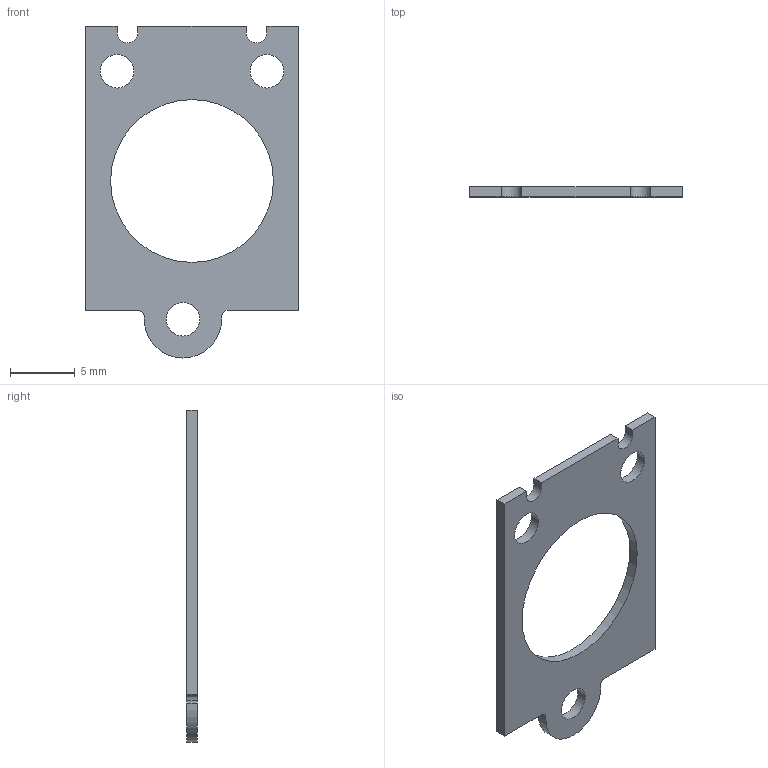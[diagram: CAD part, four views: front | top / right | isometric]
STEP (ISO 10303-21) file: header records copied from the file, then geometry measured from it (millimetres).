
FILE_DESCRIPTION(/* description */ ('(C) Elphel, Inc. 2012. Licensed under CERN OHL v.1.1 or later, see http://ohwr.org/cernohl'),/* implementation_level */ '2;1');
FILE_NAME(/* name */ '0353-30-40',/* time_stamp */ '2012-03-09T21:03:47-07:00',/* author */ (''),/* organization */ ('Elphel, Inc'),/* preprocessor_version */ 'ST-DEVELOPER v12',/* originating_system */ 'VariCAD 2012-1.04; kernel version (20100102)',/* authorisation */ '');
FILE_SCHEMA (('AUTOMOTIVE_DESIGN'));
Length unit declared in the file: millimetre
Products named in the file (1): Part
Bounding box: 16.5 x 0.8 x 25.7 mm (x, y, z)
Volume: 189.8 mm3; surface area: 593.9 mm2
Topology: 1 solids, 1 shells, 29 faces, 81 edges, 54 vertices
Faces by surface type: plane 15, cylinder 14
Entity records: 1043 total; most frequent: DIRECTION 171, CARTESIAN_POINT 166, ORIENTED_EDGE 162, EDGE_CURVE 81, AXIS2_PLACEMENT_3D 59, VERTEX_POINT 54, LINE 53, VECTOR 53
